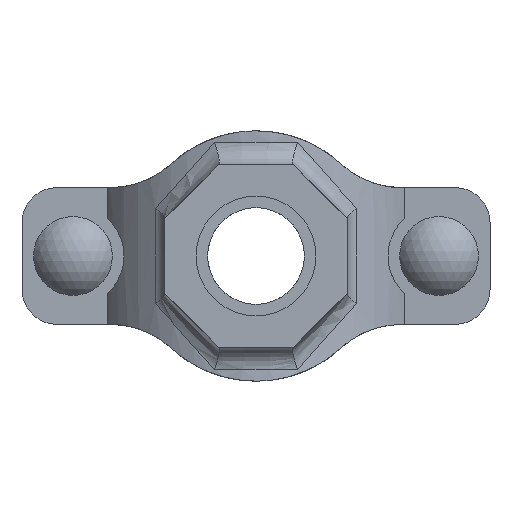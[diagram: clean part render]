
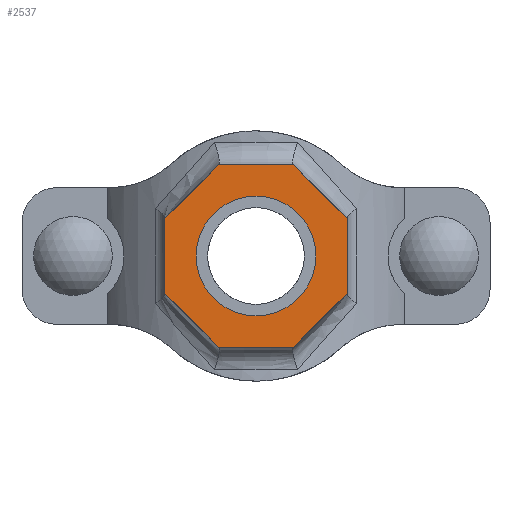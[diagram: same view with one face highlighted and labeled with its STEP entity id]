
A CAD part, front view. The second image highlights one B-rep face of the part: STEP entity #2537.
In plain terms, the highlighted planar face has unit normal (0, -1, 0) as drawn and (0, 1, 0) by its records, which use the part's own axes.
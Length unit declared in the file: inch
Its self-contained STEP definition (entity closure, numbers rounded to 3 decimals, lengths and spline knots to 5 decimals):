
#186=FACE_BOUND('',#457,.T.);
#305=FACE_OUTER_BOUND('',#456,.T.);
#456=EDGE_LOOP('',(#2128,#2129,#2130,#2131,#2132,#2133,#2134,#2135));
#457=EDGE_LOOP('',(#2136));
#594=LINE('',#4601,#780);
#597=LINE('',#4606,#783);
#599=LINE('',#4610,#785);
#601=LINE('',#4614,#787);
#637=LINE('',#5007,#823);
#639=LINE('',#5011,#825);
#641=LINE('',#5015,#827);
#643=LINE('',#5018,#829);
#780=VECTOR('',#3278,0.3937);
#783=VECTOR('',#3283,0.3937);
#785=VECTOR('',#3287,0.3937);
#787=VECTOR('',#3291,0.3937);
#823=VECTOR('',#3419,0.3937);
#825=VECTOR('',#3423,0.3937);
#827=VECTOR('',#3427,0.3937);
#829=VECTOR('',#3431,0.3937);
#919=CIRCLE('',#2802,0.6575);
#1097=VERTEX_POINT('',#4598);
#1098=VERTEX_POINT('',#4600);
#1099=VERTEX_POINT('',#4604);
#1100=VERTEX_POINT('',#4608);
#1101=VERTEX_POINT('',#4612);
#1136=VERTEX_POINT('',#4860);
#1158=VERTEX_POINT('',#5006);
#1159=VERTEX_POINT('',#5010);
#1160=VERTEX_POINT('',#5014);
#1408=EDGE_CURVE('',#1098,#1097,#594,.T.);
#1411=EDGE_CURVE('',#1097,#1099,#597,.T.);
#1413=EDGE_CURVE('',#1099,#1100,#599,.T.);
#1415=EDGE_CURVE('',#1100,#1101,#601,.T.);
#1461=EDGE_CURVE('',#1136,#1136,#919,.T.);
#1491=EDGE_CURVE('',#1158,#1098,#637,.T.);
#1493=EDGE_CURVE('',#1159,#1158,#639,.T.);
#1495=EDGE_CURVE('',#1160,#1159,#641,.T.);
#1497=EDGE_CURVE('',#1101,#1160,#643,.T.);
#2128=ORIENTED_EDGE('',*,*,#1497,.T.);
#2129=ORIENTED_EDGE('',*,*,#1495,.T.);
#2130=ORIENTED_EDGE('',*,*,#1493,.T.);
#2131=ORIENTED_EDGE('',*,*,#1491,.T.);
#2132=ORIENTED_EDGE('',*,*,#1408,.T.);
#2133=ORIENTED_EDGE('',*,*,#1411,.T.);
#2134=ORIENTED_EDGE('',*,*,#1413,.T.);
#2135=ORIENTED_EDGE('',*,*,#1415,.T.);
#2136=ORIENTED_EDGE('',*,*,#1461,.T.);
#2278=PLANE('',#2823);
#2537=ADVANCED_FACE('',(#305,#186),#2278,.T.);
#2802=AXIS2_PLACEMENT_3D('',#4861,#3369,#3370);
#2823=AXIS2_PLACEMENT_3D('',#5019,#3432,#3433);
#3278=DIRECTION('',(0.,0.,1.));
#3283=DIRECTION('',(0.707,0.,0.707));
#3287=DIRECTION('',(1.,0.,0.));
#3291=DIRECTION('',(0.707,0.,-0.707));
#3369=DIRECTION('center_axis',(0.,-1.,0.));
#3370=DIRECTION('ref_axis',(-1.,0.,0.));
#3419=DIRECTION('',(-0.707,0.,0.707));
#3423=DIRECTION('',(-1.,0.,0.));
#3427=DIRECTION('',(-0.707,0.,-0.707));
#3431=DIRECTION('',(0.,0.,-1.));
#3432=DIRECTION('center_axis',(0.,1.,0.));
#3433=DIRECTION('ref_axis',(0.,0.,1.));
#4598=CARTESIAN_POINT('',(-1.,2.74,0.41421));
#4600=CARTESIAN_POINT('',(-1.,2.74,-0.41421));
#4601=CARTESIAN_POINT('',(-1.,2.74,0.41421));
#4604=CARTESIAN_POINT('',(-0.41421,2.74,1.));
#4606=CARTESIAN_POINT('',(-0.41421,2.74,1.));
#4608=CARTESIAN_POINT('',(0.41421,2.74,1.));
#4610=CARTESIAN_POINT('',(0.41421,2.74,1.));
#4612=CARTESIAN_POINT('',(1.,2.74,0.41421));
#4614=CARTESIAN_POINT('',(1.,2.74,0.41421));
#4860=CARTESIAN_POINT('',(0.6575,2.74,0.));
#4861=CARTESIAN_POINT('Origin',(0.,2.74,0.));
#5006=CARTESIAN_POINT('',(-0.41421,2.74,-1.));
#5007=CARTESIAN_POINT('',(-1.,2.74,-0.41421));
#5010=CARTESIAN_POINT('',(0.41421,2.74,-1.));
#5011=CARTESIAN_POINT('',(-0.41421,2.74,-1.));
#5014=CARTESIAN_POINT('',(1.,2.74,-0.41421));
#5015=CARTESIAN_POINT('',(0.41421,2.74,-1.));
#5018=CARTESIAN_POINT('',(1.,2.74,-0.41421));
#5019=CARTESIAN_POINT('Origin',(0.,2.74,0.));
